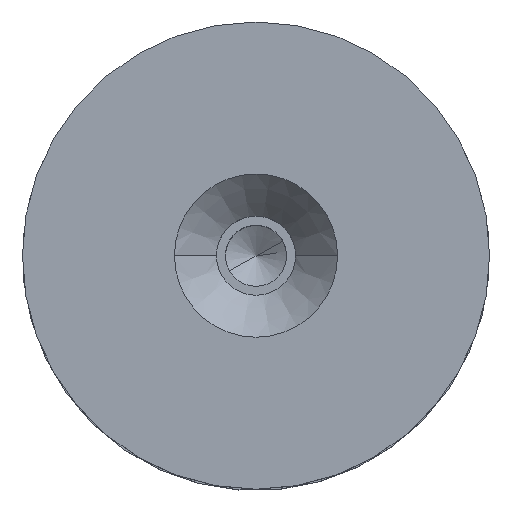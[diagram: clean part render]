
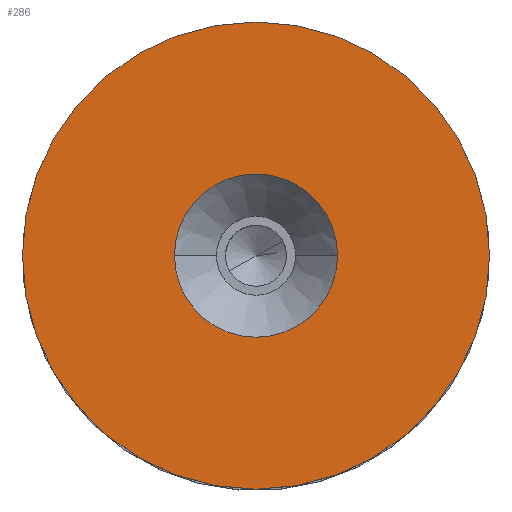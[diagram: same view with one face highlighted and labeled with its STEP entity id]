
A CAD part, top view. The second image highlights one B-rep face of the part: STEP entity #286.
In plain terms, the highlighted planar face has unit normal (0, 0, 1).
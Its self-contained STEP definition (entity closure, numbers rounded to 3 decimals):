
#2 = AXIS2_PLACEMENT_3D ( 'NONE', #714, #704, #708 ) ;
#8 = DIRECTION ( 'NONE',  ( 0., 0., 1. ) ) ;
#11 = ORIENTED_EDGE ( 'NONE', *, *, #179, .T. ) ;
#22 = DIRECTION ( 'NONE',  ( 1., 0., 0. ) ) ;
#29 = EDGE_LOOP ( 'NONE', ( #292, #445 ) ) ;
#47 = AXIS2_PLACEMENT_3D ( 'NONE', #390, #551, #22 ) ;
#74 = AXIS2_PLACEMENT_3D ( 'NONE', #150, #8, #149 ) ;
#131 = FACE_BOUND ( 'NONE', #29, .T. ) ;
#149 = DIRECTION ( 'NONE',  ( 1., 0., 0. ) ) ;
#150 = CARTESIAN_POINT ( 'NONE',  ( 0., 0., 10. ) ) ;
#154 = VERTEX_POINT ( 'NONE', #362 ) ;
#179 = EDGE_CURVE ( 'NONE', #243, #515, #535, .T. ) ;
#197 = EDGE_CURVE ( 'NONE', #154, #536, #725, .T. ) ;
#243 = VERTEX_POINT ( 'NONE', #592 ) ;
#285 = EDGE_CURVE ( 'NONE', #536, #154, #427, .T. ) ;
#286 = ADVANCED_FACE ( 'NONE', ( #131, #406 ), #539, .T. ) ;
#292 = ORIENTED_EDGE ( 'NONE', *, *, #197, .T. ) ;
#320 = EDGE_CURVE ( 'NONE', #515, #243, #383, .T. ) ;
#362 = CARTESIAN_POINT ( 'NONE',  ( 11.35, 0., 10. ) ) ;
#383 = CIRCLE ( 'NONE', #622, 32.5 ) ;
#390 = CARTESIAN_POINT ( 'NONE',  ( 0., 0., 10. ) ) ;
#406 = FACE_OUTER_BOUND ( 'NONE', #418, .T. ) ;
#408 = ORIENTED_EDGE ( 'NONE', *, *, #320, .T. ) ;
#418 = EDGE_LOOP ( 'NONE', ( #408, #11 ) ) ;
#427 = CIRCLE ( 'NONE', #2, 11.35 ) ;
#445 = ORIENTED_EDGE ( 'NONE', *, *, #285, .T. ) ;
#465 = AXIS2_PLACEMENT_3D ( 'NONE', #571, #696, #702 ) ;
#515 = VERTEX_POINT ( 'NONE', #791 ) ;
#535 = CIRCLE ( 'NONE', #74, 32.5 ) ;
#536 = VERTEX_POINT ( 'NONE', #796 ) ;
#539 = PLANE ( 'NONE',  #465 ) ;
#551 = DIRECTION ( 'NONE',  ( 0., 0., -1. ) ) ;
#571 = CARTESIAN_POINT ( 'NONE',  ( 0., 0., 10. ) ) ;
#592 = CARTESIAN_POINT ( 'NONE',  ( 32.5, 0., 10. ) ) ;
#603 = CARTESIAN_POINT ( 'NONE',  ( 0., 0., 10. ) ) ;
#614 = DIRECTION ( 'NONE',  ( 0., 0., 1. ) ) ;
#622 = AXIS2_PLACEMENT_3D ( 'NONE', #603, #614, #770 ) ;
#696 = DIRECTION ( 'NONE',  ( 0., 0., 1. ) ) ;
#702 = DIRECTION ( 'NONE',  ( 1., 0., 0. ) ) ;
#704 = DIRECTION ( 'NONE',  ( 0., 0., -1. ) ) ;
#708 = DIRECTION ( 'NONE',  ( 1., 0., 0. ) ) ;
#714 = CARTESIAN_POINT ( 'NONE',  ( 0., 0., 10. ) ) ;
#725 = CIRCLE ( 'NONE', #47, 11.35 ) ;
#770 = DIRECTION ( 'NONE',  ( 1., 0., 0. ) ) ;
#791 = CARTESIAN_POINT ( 'NONE',  ( -32.5, 0., 10. ) ) ;
#796 = CARTESIAN_POINT ( 'NONE',  ( -11.35, 0., 10. ) ) ;
